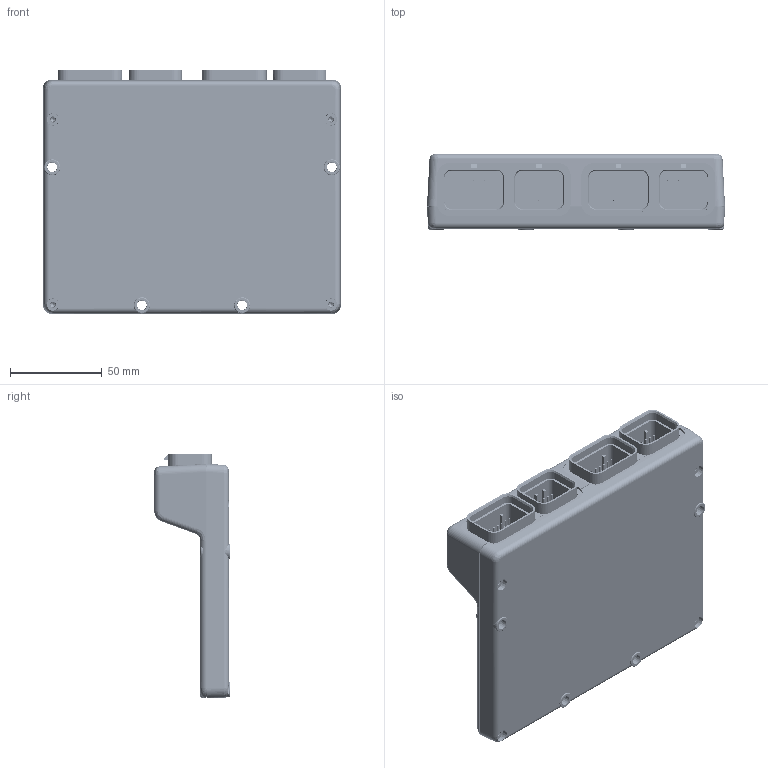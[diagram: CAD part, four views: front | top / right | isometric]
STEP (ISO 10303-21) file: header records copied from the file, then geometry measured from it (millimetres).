
FILE_DESCRIPTION(/* description */ ('Alibre Inc.'),/* implementation_level */ '2;1');
FILE_NAME(/* name */ 'export0',/* time_stamp */ '2015-09-03T15:35:37+10:00',/* author */ (''),/* organization */ (''),/* preprocessor_version */ 'ST-DEVELOPER v14',/* originating_system */ 'Alibre',/* authorisation */ '');
FILE_SCHEMA (('AUTOMOTIVE_DESIGN'));
Length unit declared in the file: millimetre
Bounding box: 162 x 41 x 133.15 mm (x, y, z)
Volume: 148065.4 mm3; surface area: 152098 mm2
Topology: 4 solids, 4 shells, 2478 faces, 8784 edges, 6563 vertices
Faces by surface type: cylinder 1181, plane 641, revolution 260, cone 155, bspline 107, torus 93, sphere 41
Entity records: 118984 total; most frequent: CARTESIAN_POINT 37858, DIRECTION 17886, ORIENTED_EDGE 17522, EDGE_CURVE 8761, AXIS2_PLACEMENT_3D 8005, VERTEX_POINT 6563, CIRCLE 5716, EDGE_LOOP 3022
